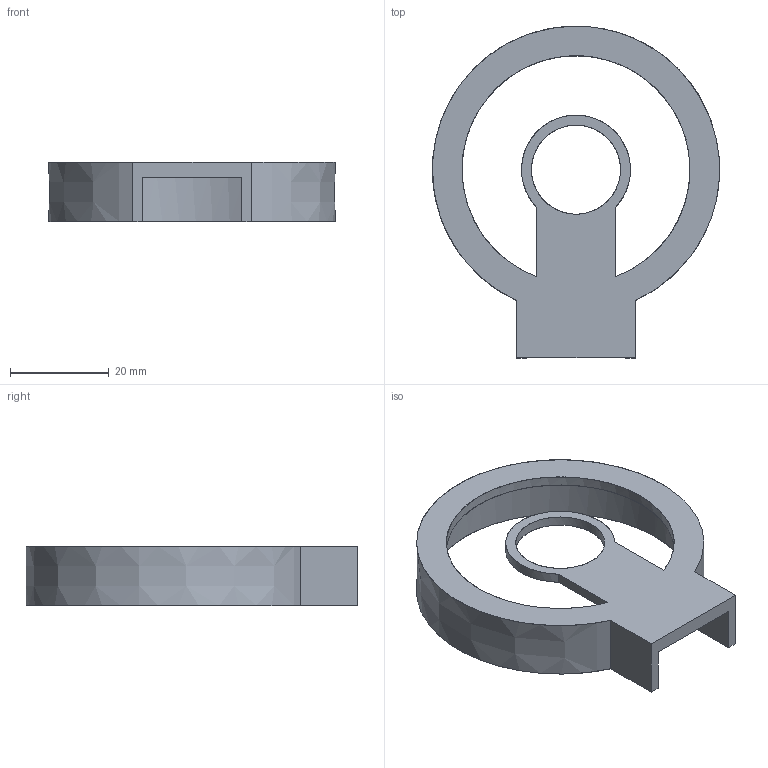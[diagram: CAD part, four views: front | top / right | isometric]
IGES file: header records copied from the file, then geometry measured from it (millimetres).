
Global section: file name: C:\Users\filip\Desktop\OpenOmega\export\omega_driver_cap.igs; native system: Rhinoceros ( Aug  5 2025 ); preprocessor: Trout Lake IGES 012 Aug  5 2025; date: 250925.064216; units: millimetre
Bounding box: 58.04 x 67.11 x 12 mm (x, y, z)
Surface area: 7658.3 mm2 (no closed solid volume)
Topology: 0 solids, 0 shells, 16 faces, 116 edges, 113 vertices
Faces by surface type: bspline 16
